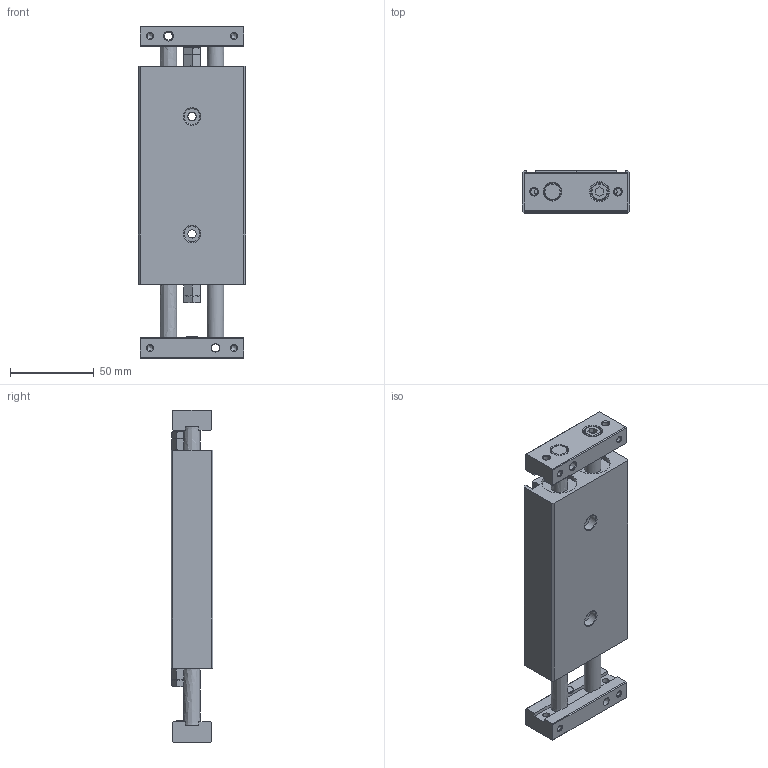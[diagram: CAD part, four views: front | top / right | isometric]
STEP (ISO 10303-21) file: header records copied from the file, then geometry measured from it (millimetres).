
FILE_DESCRIPTION((''),'2;1');
FILE_NAME('I:\3D電子目錄\氣缸\STX\STX\STX20\STX20x20.stp','2007-10-02T08:30:04',('Administrator'),(''),'Autodesk Inventor 11','Autodesk Inventor 11','');
FILE_SCHEMA(('AUTOMOTIVE_DESIGN { 1 0 10303 214 1 1 1 1 }'));
Length unit declared in the file: millimetre
Products named in the file (1): STX20
Bounding box: 64 x 25 x 198 mm (x, y, z)
Volume: 232083.5 mm3; surface area: 48464.5 mm2
Topology: 1 solids, 1 shells, 277 faces, 685 edges, 425 vertices
Faces by surface type: plane 133, cone 75, bspline 42, cylinder 23, torus 4
Full cylindrical faces by diameter (mm): 3.242 x4, 6 x2, 9.5 x2, 10 x6, 10.2 x2, 11 x1, 11.2 x1, 21 x2, 22.2 x2
Entity records: 7915 total; most frequent: CARTESIAN_POINT 2261, DIRECTION 1108, ORIENTED_EDGE 1106, EDGE_CURVE 553, AXIS2_PLACEMENT_3D 424, EDGE_LOOP 408, VERTEX_POINT 381, FACE_OUTER_BOUND 276
